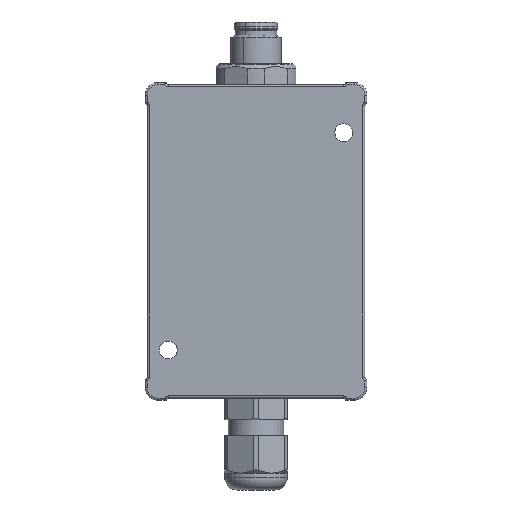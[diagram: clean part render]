
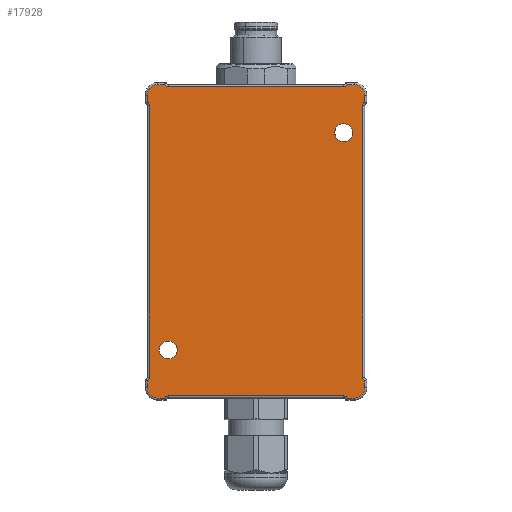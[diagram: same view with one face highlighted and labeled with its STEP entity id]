
A CAD part, front view. The second image highlights one B-rep face of the part: STEP entity #17928.
In plain terms, the highlighted planar face has unit normal (0, -1, 0).
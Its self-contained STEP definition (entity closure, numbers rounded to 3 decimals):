
#766=CARTESIAN_POINT('',(-21.866,-3.,-37.5));
#810=CARTESIAN_POINT('',(23.5,-3.,-35.));
#811=DIRECTION('',(0.,1.,0.));
#812=DIRECTION('',(1.,0.,0.));
#813=AXIS2_PLACEMENT_3D('',#810,#811,#812);
#818=DIRECTION('',(1.,0.,0.));
#819=VECTOR('',#818,1.634);
#820=CARTESIAN_POINT('',(21.866,-3.,-37.5));
#821=LINE('',#820,#819);
#825=CARTESIAN_POINT('',(21.,-3.,-38.));
#826=DIRECTION('',(0.,-1.,0.));
#827=DIRECTION('',(0.866,0.,0.5));
#828=AXIS2_PLACEMENT_3D('',#825,#826,#827);
#833=DIRECTION('',(-1.,0.,0.));
#834=VECTOR('',#833,42.);
#835=CARTESIAN_POINT('',(21.,-3.,-37.));
#836=LINE('',#835,#834);
#840=CARTESIAN_POINT('',(-21.,-3.,-38.));
#841=DIRECTION('',(0.,-1.,0.));
#842=DIRECTION('',(0.,0.,1.));
#843=AXIS2_PLACEMENT_3D('',#840,#841,#842);
#848=DIRECTION('',(1.,0.,0.));
#849=VECTOR('',#848,1.634);
#850=CARTESIAN_POINT('',(-23.5,-3.,-37.5));
#851=LINE('',#850,#849);
#855=CARTESIAN_POINT('',(-23.5,-3.,-35.));
#856=DIRECTION('',(0.,1.,0.));
#857=DIRECTION('',(0.,0.,-1.));
#858=AXIS2_PLACEMENT_3D('',#855,#856,#857);
#863=DIRECTION('',(0.,0.,-1.));
#864=VECTOR('',#863,1.634);
#865=CARTESIAN_POINT('',(-26.,-3.,-33.366));
#866=LINE('',#865,#864);
#870=CARTESIAN_POINT('',(-26.5,-3.,-32.5));
#871=DIRECTION('',(0.,-1.,0.));
#872=DIRECTION('',(0.5,0.,-0.866));
#873=AXIS2_PLACEMENT_3D('',#870,#871,#872);
#878=DIRECTION('',(0.,0.,1.));
#879=VECTOR('',#878,65.);
#880=CARTESIAN_POINT('',(-25.5,-3.,-32.5));
#881=LINE('',#880,#879);
#885=CARTESIAN_POINT('',(-26.5,-3.,32.5));
#886=DIRECTION('',(0.,-1.,0.));
#887=DIRECTION('',(1.,0.,0.));
#888=AXIS2_PLACEMENT_3D('',#885,#886,#887);
#893=DIRECTION('',(0.,0.,-1.));
#894=VECTOR('',#893,1.634);
#895=CARTESIAN_POINT('',(-26.,-3.,35.));
#896=LINE('',#895,#894);
#900=CARTESIAN_POINT('',(-23.5,-3.,35.));
#901=DIRECTION('',(0.,1.,0.));
#902=DIRECTION('',(-1.,0.,0.));
#903=AXIS2_PLACEMENT_3D('',#900,#901,#902);
#908=DIRECTION('',(-1.,0.,0.));
#909=VECTOR('',#908,1.634);
#910=CARTESIAN_POINT('',(-21.866,-3.,37.5));
#911=LINE('',#910,#909);
#915=CARTESIAN_POINT('',(-21.,-3.,38.));
#916=DIRECTION('',(0.,-1.,0.));
#917=DIRECTION('',(-0.866,0.,-0.5));
#918=AXIS2_PLACEMENT_3D('',#915,#916,#917);
#923=DIRECTION('',(1.,0.,0.));
#924=VECTOR('',#923,42.);
#925=CARTESIAN_POINT('',(-21.,-3.,37.));
#926=LINE('',#925,#924);
#930=CARTESIAN_POINT('',(21.,-3.,38.));
#931=DIRECTION('',(0.,-1.,0.));
#932=DIRECTION('',(0.,0.,-1.));
#933=AXIS2_PLACEMENT_3D('',#930,#931,#932);
#938=DIRECTION('',(-1.,0.,0.));
#939=VECTOR('',#938,1.634);
#940=CARTESIAN_POINT('',(23.5,-3.,37.5));
#941=LINE('',#940,#939);
#945=CARTESIAN_POINT('',(23.5,-3.,35.));
#946=DIRECTION('',(0.,1.,0.));
#947=DIRECTION('',(0.,0.,1.));
#948=AXIS2_PLACEMENT_3D('',#945,#946,#947);
#953=DIRECTION('',(0.,0.,1.));
#954=VECTOR('',#953,1.634);
#955=CARTESIAN_POINT('',(26.,-3.,33.366));
#956=LINE('',#955,#954);
#960=CARTESIAN_POINT('',(26.5,-3.,32.5));
#961=DIRECTION('',(0.,-1.,0.));
#962=DIRECTION('',(-0.5,0.,0.866));
#963=AXIS2_PLACEMENT_3D('',#960,#961,#962);
#968=DIRECTION('',(0.,0.,-1.));
#969=VECTOR('',#968,65.);
#970=CARTESIAN_POINT('',(25.5,-3.,32.5));
#971=LINE('',#970,#969);
#975=CARTESIAN_POINT('',(26.5,-3.,-32.5));
#976=DIRECTION('',(0.,-1.,0.));
#977=DIRECTION('',(-1.,0.,0.));
#978=AXIS2_PLACEMENT_3D('',#975,#976,#977);
#983=DIRECTION('',(0.,0.,1.));
#984=VECTOR('',#983,1.634);
#985=CARTESIAN_POINT('',(26.,-3.,-35.));
#986=LINE('',#985,#984);
#990=CARTESIAN_POINT('',(21.,-3.,26.));
#991=DIRECTION('',(0.,1.,0.));
#992=DIRECTION('',(1.,0.,0.));
#993=AXIS2_PLACEMENT_3D('',#990,#991,#992);
#998=CARTESIAN_POINT('',(21.,-3.,26.));
#999=DIRECTION('',(0.,1.,0.));
#1000=DIRECTION('',(-1.,0.,0.));
#1001=AXIS2_PLACEMENT_3D('',#998,#999,#1000);
#1006=CARTESIAN_POINT('',(-21.,-3.,-26.));
#1007=DIRECTION('',(0.,1.,0.));
#1008=DIRECTION('',(1.,0.,0.));
#1009=AXIS2_PLACEMENT_3D('',#1006,#1007,#1008);
#1014=CARTESIAN_POINT('',(-21.,-3.,-26.));
#1015=DIRECTION('',(0.,1.,0.));
#1016=DIRECTION('',(-1.,0.,0.));
#1017=AXIS2_PLACEMENT_3D('',#1014,#1015,#1016);
#1356=CARTESIAN_POINT('',(26.,-3.,-33.366));
#4827=CARTESIAN_POINT('',(-21.866,-3.,37.5));
#5096=CARTESIAN_POINT('',(-26.,-3.,-33.366));
#15165=VERTEX_POINT('',#5096);
#15167=VERTEX_POINT('',#4827);
#15168=VERTEX_POINT('',#1356);
#15170=VERTEX_POINT('',#766);
#15173=CARTESIAN_POINT('',(23.5,-3.,-37.5));
#15175=VERTEX_POINT('',#15173);
#15176=CARTESIAN_POINT('',(26.,-3.,-35.));
#15177=VERTEX_POINT('',#15176);
#15180=CARTESIAN_POINT('',(-23.5,-3.,-37.5));
#15181=CARTESIAN_POINT('',(-26.,-3.,-35.));
#15182=VERTEX_POINT('',#15180);
#15183=VERTEX_POINT('',#15181);
#15187=CARTESIAN_POINT('',(26.,-3.,35.));
#15189=VERTEX_POINT('',#15187);
#15190=CARTESIAN_POINT('',(23.5,-3.,37.5));
#15191=VERTEX_POINT('',#15190);
#15195=CARTESIAN_POINT('',(-23.5,-3.,37.5));
#15197=VERTEX_POINT('',#15195);
#15198=CARTESIAN_POINT('',(-26.,-3.,35.));
#15199=VERTEX_POINT('',#15198);
#15200=CARTESIAN_POINT('',(26.,-3.,33.366));
#15201=VERTEX_POINT('',#15200);
#15204=CARTESIAN_POINT('',(21.866,-3.,-37.5));
#15205=VERTEX_POINT('',#15204);
#15214=CARTESIAN_POINT('',(-26.,-3.,33.366));
#15215=VERTEX_POINT('',#15214);
#15218=CARTESIAN_POINT('',(21.866,-3.,37.5));
#15219=VERTEX_POINT('',#15218);
#15222=CARTESIAN_POINT('',(21.,-3.,-37.));
#15223=VERTEX_POINT('',#15222);
#15226=CARTESIAN_POINT('',(-21.,-3.,-37.));
#15227=VERTEX_POINT('',#15226);
#15230=CARTESIAN_POINT('',(25.5,-3.,32.5));
#15231=VERTEX_POINT('',#15230);
#15234=CARTESIAN_POINT('',(25.5,-3.,-32.5));
#15235=VERTEX_POINT('',#15234);
#15238=CARTESIAN_POINT('',(-21.,-3.,37.));
#15239=VERTEX_POINT('',#15238);
#15242=CARTESIAN_POINT('',(21.,-3.,37.));
#15243=VERTEX_POINT('',#15242);
#15246=CARTESIAN_POINT('',(-25.5,-3.,-32.5));
#15247=VERTEX_POINT('',#15246);
#15250=CARTESIAN_POINT('',(-25.5,-3.,32.5));
#15251=VERTEX_POINT('',#15250);
#15304=CARTESIAN_POINT('',(-18.85,-3.,-26.));
#15305=CARTESIAN_POINT('',(-23.15,-3.,-26.));
#15306=VERTEX_POINT('',#15304);
#15307=VERTEX_POINT('',#15305);
#15312=CARTESIAN_POINT('',(23.15,-3.,26.));
#15313=CARTESIAN_POINT('',(18.85,-3.,26.));
#15314=VERTEX_POINT('',#15312);
#15315=VERTEX_POINT('',#15313);
#17866=CARTESIAN_POINT('',(0.,-3.,0.));
#17867=DIRECTION('',(0.,-1.,0.));
#17868=DIRECTION('',(1.,0.,0.));
#17869=AXIS2_PLACEMENT_3D('',#17866,#17867,#17868);
#17870=PLANE('',#17869);
#17872=ORIENTED_EDGE('',*,*,#17871,.T.);
#17874=ORIENTED_EDGE('',*,*,#17873,.F.);
#17875=ORIENTED_EDGE('',*,*,#17768,.T.);
#17876=ORIENTED_EDGE('',*,*,#17790,.T.);
#17877=ORIENTED_EDGE('',*,*,#17810,.T.);
#17878=ORIENTED_EDGE('',*,*,#17831,.F.);
#17879=ORIENTED_EDGE('',*,*,#17850,.T.);
#17881=ORIENTED_EDGE('',*,*,#17880,.F.);
#17883=ORIENTED_EDGE('',*,*,#17882,.T.);
#17885=ORIENTED_EDGE('',*,*,#17884,.T.);
#17887=ORIENTED_EDGE('',*,*,#17886,.T.);
#17889=ORIENTED_EDGE('',*,*,#17888,.F.);
#17891=ORIENTED_EDGE('',*,*,#17890,.T.);
#17893=ORIENTED_EDGE('',*,*,#17892,.F.);
#17895=ORIENTED_EDGE('',*,*,#17894,.T.);
#17897=ORIENTED_EDGE('',*,*,#17896,.T.);
#17899=ORIENTED_EDGE('',*,*,#17898,.T.);
#17901=ORIENTED_EDGE('',*,*,#17900,.F.);
#17903=ORIENTED_EDGE('',*,*,#17902,.T.);
#17905=ORIENTED_EDGE('',*,*,#17904,.F.);
#17907=ORIENTED_EDGE('',*,*,#17906,.T.);
#17909=ORIENTED_EDGE('',*,*,#17908,.T.);
#17911=ORIENTED_EDGE('',*,*,#17910,.T.);
#17913=ORIENTED_EDGE('',*,*,#17912,.F.);
#17914=EDGE_LOOP('',(#17872,#17874,#17875,#17876,#17877,#17878,#17879,#17881,
#17883,#17885,#17887,#17889,#17891,#17893,#17895,#17897,#17899,#17901,#17903,
#17905,#17907,#17909,#17911,#17913));
#17915=FACE_OUTER_BOUND('',#17914,.F.);
#17917=ORIENTED_EDGE('',*,*,#17916,.F.);
#17919=ORIENTED_EDGE('',*,*,#17918,.F.);
#17920=EDGE_LOOP('',(#17917,#17919));
#17921=FACE_BOUND('',#17920,.F.);
#17923=ORIENTED_EDGE('',*,*,#17922,.F.);
#17925=ORIENTED_EDGE('',*,*,#17924,.F.);
#17926=EDGE_LOOP('',(#17923,#17925));
#17927=FACE_BOUND('',#17926,.F.);
#814=CIRCLE('',#813,2.5);
#829=CIRCLE('',#828,1.);
#844=CIRCLE('',#843,1.);
#859=CIRCLE('',#858,2.5);
#874=CIRCLE('',#873,1.);
#889=CIRCLE('',#888,1.);
#904=CIRCLE('',#903,2.5);
#919=CIRCLE('',#918,1.);
#934=CIRCLE('',#933,1.);
#949=CIRCLE('',#948,2.5);
#964=CIRCLE('',#963,1.);
#979=CIRCLE('',#978,1.);
#994=CIRCLE('',#993,2.15);
#1002=CIRCLE('',#1001,2.15);
#1010=CIRCLE('',#1009,2.15);
#1018=CIRCLE('',#1017,2.15);
#17768=EDGE_CURVE('',#15205,#15223,#829,.T.);
#17790=EDGE_CURVE('',#15223,#15227,#836,.T.);
#17810=EDGE_CURVE('',#15227,#15170,#844,.T.);
#17831=EDGE_CURVE('',#15182,#15170,#851,.T.);
#17850=EDGE_CURVE('',#15182,#15183,#859,.T.);
#17871=EDGE_CURVE('',#15177,#15175,#814,.T.);
#17873=EDGE_CURVE('',#15205,#15175,#821,.T.);
#17880=EDGE_CURVE('',#15165,#15183,#866,.T.);
#17882=EDGE_CURVE('',#15165,#15247,#874,.T.);
#17884=EDGE_CURVE('',#15247,#15251,#881,.T.);
#17886=EDGE_CURVE('',#15251,#15215,#889,.T.);
#17888=EDGE_CURVE('',#15199,#15215,#896,.T.);
#17890=EDGE_CURVE('',#15199,#15197,#904,.T.);
#17892=EDGE_CURVE('',#15167,#15197,#911,.T.);
#17894=EDGE_CURVE('',#15167,#15239,#919,.T.);
#17896=EDGE_CURVE('',#15239,#15243,#926,.T.);
#17898=EDGE_CURVE('',#15243,#15219,#934,.T.);
#17900=EDGE_CURVE('',#15191,#15219,#941,.T.);
#17902=EDGE_CURVE('',#15191,#15189,#949,.T.);
#17904=EDGE_CURVE('',#15201,#15189,#956,.T.);
#17906=EDGE_CURVE('',#15201,#15231,#964,.T.);
#17908=EDGE_CURVE('',#15231,#15235,#971,.T.);
#17910=EDGE_CURVE('',#15235,#15168,#979,.T.);
#17912=EDGE_CURVE('',#15177,#15168,#986,.T.);
#17916=EDGE_CURVE('',#15314,#15315,#994,.T.);
#17918=EDGE_CURVE('',#15315,#15314,#1002,.T.);
#17922=EDGE_CURVE('',#15306,#15307,#1010,.T.);
#17924=EDGE_CURVE('',#15307,#15306,#1018,.T.);
#17928=ADVANCED_FACE('',(#17915,#17921,#17927),#17870,.T.);
